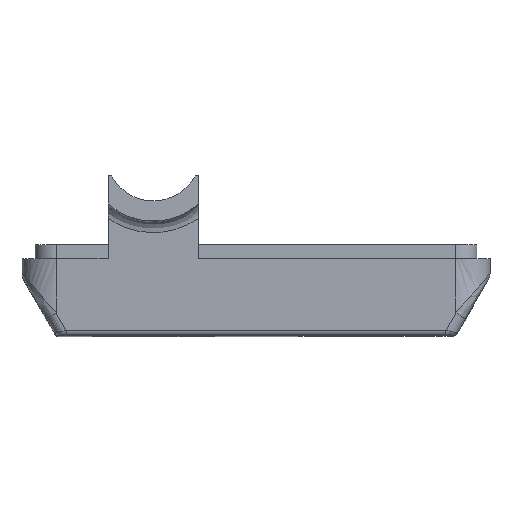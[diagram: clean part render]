
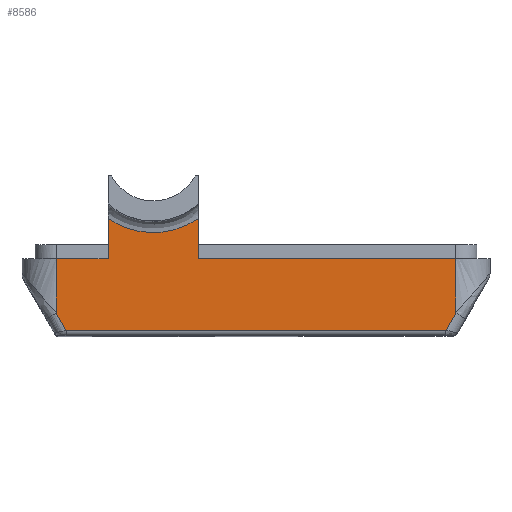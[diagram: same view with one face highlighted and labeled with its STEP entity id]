
A CAD part, top view. The second image highlights one B-rep face of the part: STEP entity #8586.
In plain terms, the highlighted free-form (B-spline) face has degree [1, 1] with [2, 2] control points.
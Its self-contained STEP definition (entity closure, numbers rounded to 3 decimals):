
#659=CARTESIAN_POINT('V218',(41.5,-5.25,
   -1.4));
#660=VERTEX_POINT('V218',#659);
#683=CARTESIAN_POINT('V221',(41.5,-10.0,
   -1.4));
#684=VERTEX_POINT('V221',#683);
#706=CARTESIAN_POINT('E321',(41.5,-5.25,
   -1.4));
#707=CARTESIAN_POINT('E321',(41.5,-10.0,
   -1.4));
#708=B_SPLINE_CURVE_WITH_KNOTS('E321',1,(#706,#707),.POLYLINE_FORM.,
   .F.,.U.,(2,2),(2.053,3.061),
   .UNSPECIFIED.);
#709=EDGE_CURVE('E321',#660,#684,#708,.T.);
#1922=CARTESIAN_POINT('V33',(42.366,-11.5,
   -1.4));
#1923=VERTEX_POINT('V33',#1922);
#1933=CARTESIAN_POINT('E421',(41.5,-10.0,
   -1.4));
#1934=CARTESIAN_POINT('E421',(42.366,-11.5,
   -1.4));
#1935=B_SPLINE_CURVE_WITH_KNOTS('E421',1,(#1933,#1934),
   .POLYLINE_FORM.,.F.,.U.,(2,2),(2.0,3.103),
   .UNSPECIFIED.);
#1936=EDGE_CURVE('E421',#684,#1923,#1935,.T.);
#7790=CARTESIAN_POINT('V35',(75.634,-11.5,
   -1.4));
#7791=VERTEX_POINT('V35',#7790);
#7805=CARTESIAN_POINT('E38',(42.366,-11.5,
   -1.4));
#7806=CARTESIAN_POINT('E38',(75.634,-11.5,
   -1.4));
#7807=B_SPLINE_CURVE_WITH_KNOTS('E38',1,(#7805,#7806),
   .POLYLINE_FORM.,.F.,.U.,(2,2),(2.0,44.358),
   .UNSPECIFIED.);
#7808=EDGE_CURVE('E38',#1923,#7791,#7807,.T.);
#8269=CARTESIAN_POINT('V216',(76.5,-10.0,
   -1.4));
#8270=VERTEX_POINT('V216',#8269);
#8284=CARTESIAN_POINT('E410',(75.634,-11.5,
   -1.4));
#8285=CARTESIAN_POINT('E410',(76.5,-10.0,
   -1.4));
#8286=B_SPLINE_CURVE_WITH_KNOTS('E410',1,(#8284,#8285),
   .POLYLINE_FORM.,.F.,.U.,(2,2),(2.368,
   3.47),.UNSPECIFIED.);
#8287=EDGE_CURVE('E410',#7791,#8270,#8286,.T.);
#8383=CARTESIAN_POINT('V215',(76.5,-5.25,
   -1.4));
#8384=VERTEX_POINT('V215',#8383);
#8398=CARTESIAN_POINT('E315',(76.5,-10.0,
   -1.4));
#8399=CARTESIAN_POINT('E315',(76.5,-5.25,
   -1.4));
#8400=B_SPLINE_CURVE_WITH_KNOTS('E315',1,(#8398,#8399),
   .POLYLINE_FORM.,.F.,.U.,(2,2),(2.424,
   3.432),.UNSPECIFIED.);
#8401=EDGE_CURVE('E315',#8270,#8384,#8400,.T.);
#8413=CARTESIAN_POINT('V285',(53.95,-5.25,
   -1.4));
#8414=VERTEX_POINT('V285',#8413);
#8415=CARTESIAN_POINT('E472',(76.5,-5.25,
   -1.4));
#8416=CARTESIAN_POINT('E472',(53.95,-5.25,
   -1.4));
#8417=B_SPLINE_CURVE_WITH_KNOTS('E472',1,(#8415,#8416),
   .POLYLINE_FORM.,.F.,.U.,(2,2),(0.0,90.2),
   .UNSPECIFIED.);
#8418=EDGE_CURVE('E472',#8384,#8414,#8417,.T.);
#8430=CARTESIAN_POINT('V286',(46.05,-5.25,
   -1.4));
#8431=VERTEX_POINT('V286',#8430);
#8432=CARTESIAN_POINT('E471',(46.05,-5.25,
   -1.4));
#8433=CARTESIAN_POINT('E471',(41.5,-5.25,
   -1.4));
#8434=B_SPLINE_CURVE_WITH_KNOTS('E471',1,(#8432,#8433),
   .POLYLINE_FORM.,.F.,.U.,(2,2),(121.8,140.0),
   .UNSPECIFIED.);
#8435=EDGE_CURVE('E471',#8431,#660,#8434,.T.);
#8516=CARTESIAN_POINT('V278',(53.95,-1.718,
   -1.4));
#8517=VERTEX_POINT('V278',#8516);
#8527=CARTESIAN_POINT('E474',(53.95,-5.25,
   -1.4));
#8528=CARTESIAN_POINT('E474',(53.95,-1.718,
   -1.4));
#8529=QUASI_UNIFORM_CURVE('E474',1,(#8527,#8528),.POLYLINE_FORM.,.F.,
   .U.);
#8530=EDGE_CURVE('E474',#8414,#8517,#8529,.T.);
#8549=CARTESIAN_POINT('F192',(79.6,6.811,
   -1.4));
#8550=CARTESIAN_POINT('F192',(38.4,6.811,
   -1.4));
#8551=CARTESIAN_POINT('F192',(79.6,-12.1,
   -1.4));
#8552=CARTESIAN_POINT('F192',(38.4,-12.1,
   -1.4));
#8553=B_SPLINE_SURFACE_WITH_KNOTS('F192',1,1,((#8549,#8551),(
   #8550,#8552)),.PLANE_SURF.,.F.,.F.,.U.,(2,2),(2,2),(0.0,
   2.179),(0.0,1.0),.UNSPECIFIED.);
#8554=ORIENTED_EDGE('E474',*,*,#8530,.T.);
#8555=CARTESIAN_POINT('V277',(46.05,-1.718,
   -1.4));
#8556=VERTEX_POINT('V277',#8555);
#8557=CARTESIAN_POINT('E456',(53.95,-1.718,
   -1.4));
#8558=CARTESIAN_POINT('E456',(52.566,-2.674,
   -1.4));
#8559=CARTESIAN_POINT('E456',(50.898,-2.892,
   -1.4));
#8560=CARTESIAN_POINT('E456',(48.248,-3.237,
   -1.4));
#8561=CARTESIAN_POINT('E456',(46.05,-1.718,
   -1.4));
#8569=(BOUNDED_CURVE()B_SPLINE_CURVE(2,(#8557,#8558,#8559,#8560,
   #8561),.CIRCULAR_ARC.,.F.,.U.)B_SPLINE_CURVE_WITH_KNOTS((3,2,3),
   (6.233,8.377,11.622),
   .UNSPECIFIED.)CURVE()GEOMETRIC_REPRESENTATION_ITEM()
   RATIONAL_B_SPLINE_CURVE((0.889,0.916,
   1.0,0.873,0.876))REPRESENTATION_ITEM(
   'E456'));
#8570=EDGE_CURVE('E456',#8517,#8556,#8569,.T.);
#8571=ORIENTED_EDGE('E456',*,*,#8570,.T.);
#8572=CARTESIAN_POINT('E476',(46.05,-1.718,
   -1.4));
#8573=CARTESIAN_POINT('E476',(46.05,-5.25,
   -1.4));
#8574=QUASI_UNIFORM_CURVE('E476',1,(#8572,#8573),.POLYLINE_FORM.,.F.,
   .U.);
#8575=EDGE_CURVE('E476',#8556,#8431,#8574,.T.);
#8576=ORIENTED_EDGE('E476',*,*,#8575,.T.);
#8577=ORIENTED_EDGE('E471',*,*,#8435,.T.);
#8578=ORIENTED_EDGE('F106',*,*,#709,.T.);
#8579=ORIENTED_EDGE('E421',*,*,#1936,.T.);
#8580=ORIENTED_EDGE('E38',*,*,#7808,.T.);
#8581=ORIENTED_EDGE('F154',*,*,#8287,.T.);
#8582=ORIENTED_EDGE('E315',*,*,#8401,.T.);
#8583=ORIENTED_EDGE('E472',*,*,#8418,.T.);
#8584=EDGE_LOOP('F192',(#8554,#8571,#8576,#8577,#8578,#8579,#8580,
   #8581,#8582,#8583));
#8585=FACE_OUTER_BOUND('F192',#8584,.T.);
#8586=ADVANCED_FACE('F192',(#8585),#8553,.T.);
